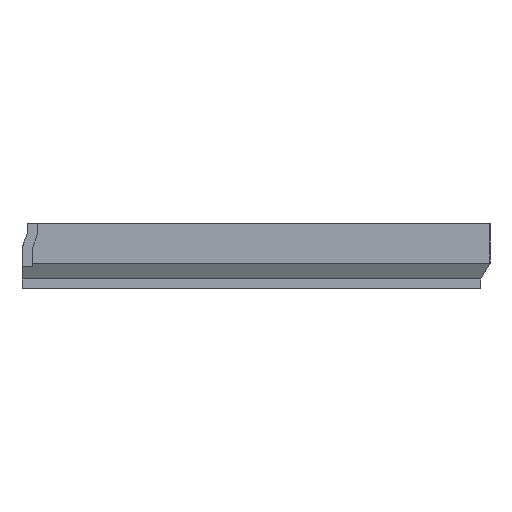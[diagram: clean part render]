
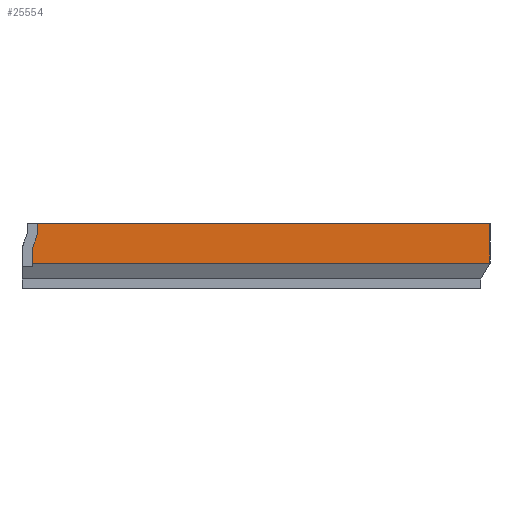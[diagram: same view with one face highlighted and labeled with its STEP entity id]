
A CAD part, left-side view. The second image highlights one B-rep face of the part: STEP entity #25554.
In plain terms, the highlighted planar face has unit normal (-1, 0, 0).
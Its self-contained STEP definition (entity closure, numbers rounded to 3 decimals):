
#2732 = PLANE('',#2733);
#2733 = AXIS2_PLACEMENT_3D('',#2734,#2735,#2736);
#2734 = CARTESIAN_POINT('',(0.,-3.046,25.));
#2735 = DIRECTION('',(0.,0.,1.));
#2736 = DIRECTION('',(1.,0.,-0.));
#11981 = VERTEX_POINT('',#11982);
#11982 = CARTESIAN_POINT('',(-195.2,-6.1,25.));
#11995 = PLANE('',#11996);
#11996 = AXIS2_PLACEMENT_3D('',#11997,#11998,#11999);
#11997 = CARTESIAN_POINT('',(-194.4,-6.1,38.));
#11998 = DIRECTION('',(0.,1.,-0.));
#11999 = DIRECTION('',(-1.,0.,0.));
#12006 = EDGE_CURVE('',#11981,#12007,#12009,.T.);
#12007 = VERTEX_POINT('',#12008);
#12008 = CARTESIAN_POINT('',(-195.2,-179.2,25.));
#12009 = SURFACE_CURVE('',#12010,(#12014,#12021),.PCURVE_S1.);
#12010 = LINE('',#12011,#12012);
#12011 = CARTESIAN_POINT('',(-195.2,152.,25.));
#12012 = VECTOR('',#12013,1.);
#12013 = DIRECTION('',(0.,-1.,0.));
#12014 = PCURVE('',#2732,#12015);
#12015 = DEFINITIONAL_REPRESENTATION('',(#12016),#12020);
#12016 = LINE('',#12017,#12018);
#12017 = CARTESIAN_POINT('',(-195.2,155.046));
#12018 = VECTOR('',#12019,1.);
#12019 = DIRECTION('',(0.,-1.));
#12020 = ( GEOMETRIC_REPRESENTATION_CONTEXT(2) 
PARAMETRIC_REPRESENTATION_CONTEXT() REPRESENTATION_CONTEXT('2D SPACE',''
  ) );
#12021 = PCURVE('',#12022,#12027);
#12022 = PLANE('',#12023);
#12023 = AXIS2_PLACEMENT_3D('',#12024,#12025,#12026);
#12024 = CARTESIAN_POINT('',(-195.2,152.,9.762));
#12025 = DIRECTION('',(1.,0.,-0.));
#12026 = DIRECTION('',(0.,-1.,0.));
#12027 = DEFINITIONAL_REPRESENTATION('',(#12028),#12032);
#12028 = LINE('',#12029,#12030);
#12029 = CARTESIAN_POINT('',(0.,-15.238));
#12030 = VECTOR('',#12031,1.);
#12031 = DIRECTION('',(1.,0.));
#12032 = ( GEOMETRIC_REPRESENTATION_CONTEXT(2) 
PARAMETRIC_REPRESENTATION_CONTEXT() REPRESENTATION_CONTEXT('2D SPACE',''
  ) );
#12050 = PLANE('',#12051);
#12051 = AXIS2_PLACEMENT_3D('',#12052,#12053,#12054);
#12052 = CARTESIAN_POINT('',(-195.2,-179.2,9.762));
#12053 = DIRECTION('',(0.,1.,0.));
#12054 = DIRECTION('',(1.,0.,0.));
#12148 = PLANE('',#12149);
#12149 = AXIS2_PLACEMENT_3D('',#12150,#12151,#12152);
#12150 = CARTESIAN_POINT('',(-193.45,-12.725,6.731));
#12151 = DIRECTION('',(-0.866,0.,-0.5));
#12152 = DIRECTION('',(0.,-1.,
    0.));
#12175 = PLANE('',#12176);
#12176 = AXIS2_PLACEMENT_3D('',#12177,#12178,#12179);
#12177 = CARTESIAN_POINT('',(-194.4,-4.1,8.));
#12178 = DIRECTION('',(0.,1.,-0.));
#12179 = DIRECTION('',(-1.,0.,0.));
#12201 = PLANE('',#12202);
#12202 = AXIS2_PLACEMENT_3D('',#12203,#12204,#12205);
#12203 = CARTESIAN_POINT('',(-194.4,-6.1,21.));
#12204 = DIRECTION('',(0.,0.94,0.342));
#12205 = DIRECTION('',(-1.,0.,0.));
#25293 = VERTEX_POINT('',#25294);
#25294 = CARTESIAN_POINT('',(-195.2,-179.2,9.762));
#25484 = VERTEX_POINT('',#25485);
#25485 = CARTESIAN_POINT('',(-195.2,-6.1,21.));
#25506 = EDGE_CURVE('',#25484,#11981,#25507,.T.);
#25507 = SURFACE_CURVE('',#25508,(#25512,#25518),.PCURVE_S1.);
#25508 = LINE('',#25509,#25510);
#25509 = CARTESIAN_POINT('',(-195.2,-6.1,23.881));
#25510 = VECTOR('',#25511,1.);
#25511 = DIRECTION('',(0.,0.,1.));
#25512 = PCURVE('',#11995,#25513);
#25513 = DEFINITIONAL_REPRESENTATION('',(#25514),#25517);
#25514 = B_SPLINE_CURVE_WITH_KNOTS('',1,(#25515,#25516),.UNSPECIFIED.,
  .F.,.F.,(2,2),(-2.881,1.119),
  .PIECEWISE_BEZIER_KNOTS.);
#25515 = CARTESIAN_POINT('',(0.8,-17.));
#25516 = CARTESIAN_POINT('',(0.8,-13.));
#25517 = ( GEOMETRIC_REPRESENTATION_CONTEXT(2) 
PARAMETRIC_REPRESENTATION_CONTEXT() REPRESENTATION_CONTEXT('2D SPACE',''
  ) );
#25518 = PCURVE('',#12022,#25519);
#25519 = DEFINITIONAL_REPRESENTATION('',(#25520),#25523);
#25520 = B_SPLINE_CURVE_WITH_KNOTS('',1,(#25521,#25522),.UNSPECIFIED.,
  .F.,.F.,(2,2),(-2.881,1.119),
  .PIECEWISE_BEZIER_KNOTS.);
#25521 = CARTESIAN_POINT('',(158.1,-11.238));
#25522 = CARTESIAN_POINT('',(158.1,-15.238));
#25523 = ( GEOMETRIC_REPRESENTATION_CONTEXT(2) 
PARAMETRIC_REPRESENTATION_CONTEXT() REPRESENTATION_CONTEXT('2D SPACE',''
  ) );
#25529 = EDGE_CURVE('',#12007,#25293,#25530,.T.);
#25530 = SURFACE_CURVE('',#25531,(#25535,#25542),.PCURVE_S1.);
#25531 = LINE('',#25532,#25533);
#25532 = CARTESIAN_POINT('',(-195.2,-179.2,25.));
#25533 = VECTOR('',#25534,1.);
#25534 = DIRECTION('',(0.,0.,-1.));
#25535 = PCURVE('',#12050,#25536);
#25536 = DEFINITIONAL_REPRESENTATION('',(#25537),#25541);
#25537 = LINE('',#25538,#25539);
#25538 = CARTESIAN_POINT('',(0.,-15.238));
#25539 = VECTOR('',#25540,1.);
#25540 = DIRECTION('',(0.,1.));
#25541 = ( GEOMETRIC_REPRESENTATION_CONTEXT(2) 
PARAMETRIC_REPRESENTATION_CONTEXT() REPRESENTATION_CONTEXT('2D SPACE',''
  ) );
#25542 = PCURVE('',#12022,#25543);
#25543 = DEFINITIONAL_REPRESENTATION('',(#25544),#25548);
#25544 = LINE('',#25545,#25546);
#25545 = CARTESIAN_POINT('',(331.2,-15.238));
#25546 = VECTOR('',#25547,1.);
#25547 = DIRECTION('',(0.,1.));
#25548 = ( GEOMETRIC_REPRESENTATION_CONTEXT(2) 
PARAMETRIC_REPRESENTATION_CONTEXT() REPRESENTATION_CONTEXT('2D SPACE',''
  ) );
#25554 = ADVANCED_FACE('',(#25555),#12022,.F.);
#25555 = FACE_BOUND('',#25556,.F.);
#25556 = EDGE_LOOP('',(#25557,#25558,#25559,#25560,#25583,#25604));
#25557 = ORIENTED_EDGE('',*,*,#25506,.T.);
#25558 = ORIENTED_EDGE('',*,*,#12006,.T.);
#25559 = ORIENTED_EDGE('',*,*,#25529,.T.);
#25560 = ORIENTED_EDGE('',*,*,#25561,.F.);
#25561 = EDGE_CURVE('',#25562,#25293,#25564,.T.);
#25562 = VERTEX_POINT('',#25563);
#25563 = CARTESIAN_POINT('',(-195.2,-4.1,9.762));
#25564 = SURFACE_CURVE('',#25565,(#25569,#25576),.PCURVE_S1.);
#25565 = LINE('',#25566,#25567);
#25566 = CARTESIAN_POINT('',(-195.2,152.,9.762));
#25567 = VECTOR('',#25568,1.);
#25568 = DIRECTION('',(0.,-1.,0.));
#25569 = PCURVE('',#12022,#25570);
#25570 = DEFINITIONAL_REPRESENTATION('',(#25571),#25575);
#25571 = LINE('',#25572,#25573);
#25572 = CARTESIAN_POINT('',(0.,0.));
#25573 = VECTOR('',#25574,1.);
#25574 = DIRECTION('',(1.,0.));
#25575 = ( GEOMETRIC_REPRESENTATION_CONTEXT(2) 
PARAMETRIC_REPRESENTATION_CONTEXT() REPRESENTATION_CONTEXT('2D SPACE',''
  ) );
#25576 = PCURVE('',#12148,#25577);
#25577 = DEFINITIONAL_REPRESENTATION('',(#25578),#25582);
#25578 = LINE('',#25579,#25580);
#25579 = CARTESIAN_POINT('',(-164.725,3.519));
#25580 = VECTOR('',#25581,1.);
#25581 = DIRECTION('',(1.,0.));
#25582 = ( GEOMETRIC_REPRESENTATION_CONTEXT(2) 
PARAMETRIC_REPRESENTATION_CONTEXT() REPRESENTATION_CONTEXT('2D SPACE',''
  ) );
#25583 = ORIENTED_EDGE('',*,*,#25584,.T.);
#25584 = EDGE_CURVE('',#25562,#25585,#25587,.T.);
#25585 = VERTEX_POINT('',#25586);
#25586 = CARTESIAN_POINT('',(-195.2,-4.1,15.5));
#25587 = SURFACE_CURVE('',#25588,(#25592,#25598),.PCURVE_S1.);
#25588 = LINE('',#25589,#25590);
#25589 = CARTESIAN_POINT('',(-195.2,-4.1,8.881));
#25590 = VECTOR('',#25591,1.);
#25591 = DIRECTION('',(0.,0.,1.));
#25592 = PCURVE('',#12022,#25593);
#25593 = DEFINITIONAL_REPRESENTATION('',(#25594),#25597);
#25594 = B_SPLINE_CURVE_WITH_KNOTS('',1,(#25595,#25596),.UNSPECIFIED.,
  .F.,.F.,(2,2),(0.881,6.619),
  .PIECEWISE_BEZIER_KNOTS.);
#25595 = CARTESIAN_POINT('',(156.1,0.));
#25596 = CARTESIAN_POINT('',(156.1,-5.738));
#25597 = ( GEOMETRIC_REPRESENTATION_CONTEXT(2) 
PARAMETRIC_REPRESENTATION_CONTEXT() REPRESENTATION_CONTEXT('2D SPACE',''
  ) );
#25598 = PCURVE('',#12175,#25599);
#25599 = DEFINITIONAL_REPRESENTATION('',(#25600),#25603);
#25600 = B_SPLINE_CURVE_WITH_KNOTS('',1,(#25601,#25602),.UNSPECIFIED.,
  .F.,.F.,(2,2),(0.881,6.619),
  .PIECEWISE_BEZIER_KNOTS.);
#25601 = CARTESIAN_POINT('',(0.8,1.762));
#25602 = CARTESIAN_POINT('',(0.8,7.5));
#25603 = ( GEOMETRIC_REPRESENTATION_CONTEXT(2) 
PARAMETRIC_REPRESENTATION_CONTEXT() REPRESENTATION_CONTEXT('2D SPACE',''
  ) );
#25604 = ORIENTED_EDGE('',*,*,#25605,.T.);
#25605 = EDGE_CURVE('',#25585,#25484,#25606,.T.);
#25606 = SURFACE_CURVE('',#25607,(#25611,#25617),.PCURVE_S1.);
#25607 = LINE('',#25608,#25609);
#25608 = CARTESIAN_POINT('',(-195.2,4.937,-9.351));
#25609 = VECTOR('',#25610,1.);
#25610 = DIRECTION('',(0.,-0.342,0.94));
#25611 = PCURVE('',#12022,#25612);
#25612 = DEFINITIONAL_REPRESENTATION('',(#25613),#25616);
#25613 = B_SPLINE_CURVE_WITH_KNOTS('',1,(#25614,#25615),.UNSPECIFIED.,
  .F.,.F.,(2,2),(26.443,32.295),
  .PIECEWISE_BEZIER_KNOTS.);
#25614 = CARTESIAN_POINT('',(156.1,-5.738));
#25615 = CARTESIAN_POINT('',(158.1,-11.238));
#25616 = ( GEOMETRIC_REPRESENTATION_CONTEXT(2) 
PARAMETRIC_REPRESENTATION_CONTEXT() REPRESENTATION_CONTEXT('2D SPACE',''
  ) );
#25617 = PCURVE('',#12201,#25618);
#25618 = DEFINITIONAL_REPRESENTATION('',(#25619),#25622);
#25619 = B_SPLINE_CURVE_WITH_KNOTS('',1,(#25620,#25621),.UNSPECIFIED.,
  .F.,.F.,(2,2),(26.443,32.295),
  .PIECEWISE_BEZIER_KNOTS.);
#25620 = CARTESIAN_POINT('',(0.8,-5.852));
#25621 = CARTESIAN_POINT('',(0.8,0.));
#25622 = ( GEOMETRIC_REPRESENTATION_CONTEXT(2) 
PARAMETRIC_REPRESENTATION_CONTEXT() REPRESENTATION_CONTEXT('2D SPACE',''
  ) );
